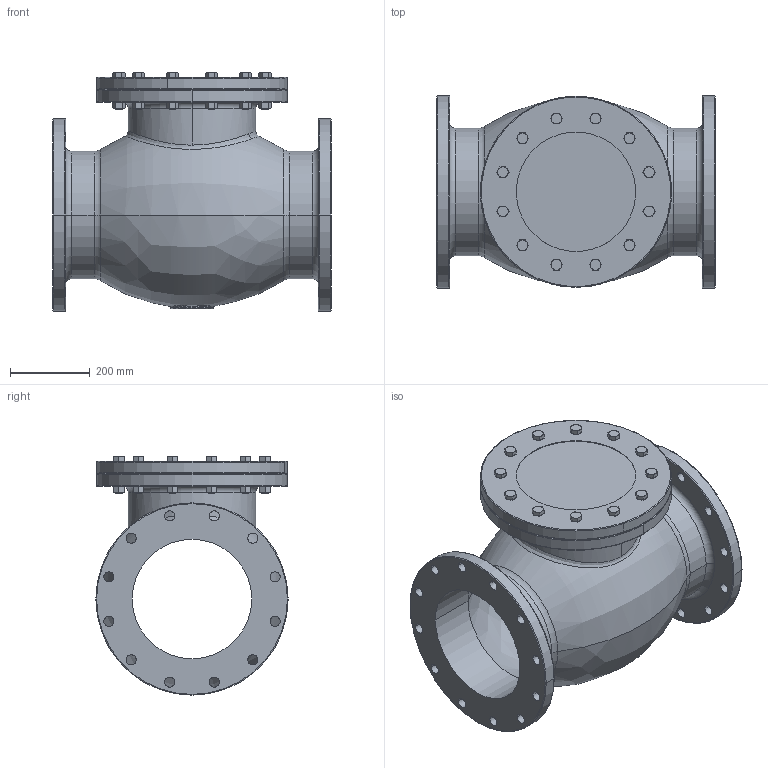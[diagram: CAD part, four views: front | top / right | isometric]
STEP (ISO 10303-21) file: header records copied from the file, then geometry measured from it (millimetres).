
FILE_DESCRIPTION(('Open CASCADE Model'),'2;1');
FILE_NAME('Open CASCADE Shape Model','2022-03-10T07:43:26',('Author'),( 'Open CASCADE'),'Open CASCADE STEP processor 7.3','Open CASCADE 7.3' ,'Unknown');
FILE_SCHEMA(('AUTOMOTIVE_DESIGN { 1 0 10303 214 1 1 1 1 }'));
Length unit declared in the file: millimetre
Products named in the file (27): Open CASCADE STEP translator 7.3 1; Open CASCADE STEP translator 7.3 1.1; Open CASCADE STEP translator 7.3 1.2; Open CASCADE STEP translator 7.3 1.3; Open CASCADE STEP translator 7.3 1.4; Open CASCADE STEP translator 7.3 1.5; Open CASCADE STEP translator 7.3 1.6; Open CASCADE STEP translator 7.3 1.7; Open CASCADE STEP translator 7.3 1.8; Open CASCADE STEP translator 7.3 1.9; Open CASCADE STEP translator 7.3 1.10; Open CASCADE STEP translator 7.3 1.11; Open CASCADE STEP translator 7.3 1.12; Open CASCADE STEP translator 7.3 1.13; Open CASCADE STEP translator 7.3 1.14; Open CASCADE STEP translator 7.3 1.15; Open CASCADE STEP translator 7.3 1.16; Open CASCADE STEP translator 7.3 1.17; Open CASCADE STEP translator 7.3 1.18; Open CASCADE STEP translator 7.3 1.19; Open CASCADE STEP translator 7.3 1.20; Open CASCADE STEP translator 7.3 1.21; Open CASCADE STEP translator 7.3 1.22; Open CASCADE STEP translator 7.3 1.23; Open CASCADE STEP translator 7.3 1.24; Open CASCADE STEP translator 7.3 1.25; Open CASCADE STEP translator 7.3 1.26
Assembly tree (26 placements, depth 2):
  Open CASCADE STEP translator 7.3 1
    Open CASCADE STEP translator 7.3 1.1
    Open CASCADE STEP translator 7.3 1.2
    Open CASCADE STEP translator 7.3 1.3
    Open CASCADE STEP translator 7.3 1.4
    Open CASCADE STEP translator 7.3 1.5
    Open CASCADE STEP translator 7.3 1.6
    Open CASCADE STEP translator 7.3 1.7
    Open CASCADE STEP translator 7.3 1.8
    Open CASCADE STEP translator 7.3 1.9
    Open CASCADE STEP translator 7.3 1.10
    Open CASCADE STEP translator 7.3 1.11
    Open CASCADE STEP translator 7.3 1.12
    Open CASCADE STEP translator 7.3 1.13
    Open CASCADE STEP translator 7.3 1.14
    Open CASCADE STEP translator 7.3 1.15
    Open CASCADE STEP translator 7.3 1.16
    Open CASCADE STEP translator 7.3 1.17
    Open CASCADE STEP translator 7.3 1.18
    Open CASCADE STEP translator 7.3 1.19
    Open CASCADE STEP translator 7.3 1.20
    Open CASCADE STEP translator 7.3 1.21
    Open CASCADE STEP translator 7.3 1.22
    Open CASCADE STEP translator 7.3 1.23
    Open CASCADE STEP translator 7.3 1.24
    Open CASCADE STEP translator 7.3 1.25
    Open CASCADE STEP translator 7.3 1.26
Bounding box: 698.5 x 483 x 598.62 mm (x, y, z)
Volume: 24130062.2 mm3; surface area: 3089382.7 mm2
Topology: 26 solids, 26 shells, 713 faces, 1698 edges, 1056 vertices
Faces by surface type: plane 287, cone 216, cylinder 172, torus 28, revolution 6, bspline 4
Entity records: 63658 total; most frequent: CARTESIAN_POINT 30620, DIRECTION 5723, ORIENTED_EDGE 3396, PCURVE 3396, DEFINITIONAL_REPRESENTATION 3396, LINE 2625, VECTOR 2625, EDGE_CURVE 1698
